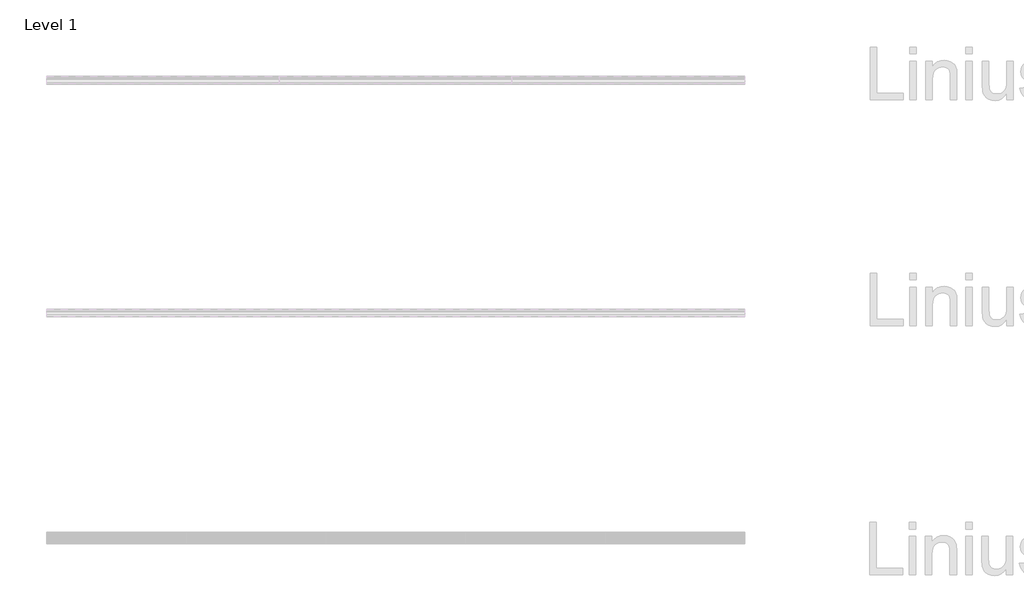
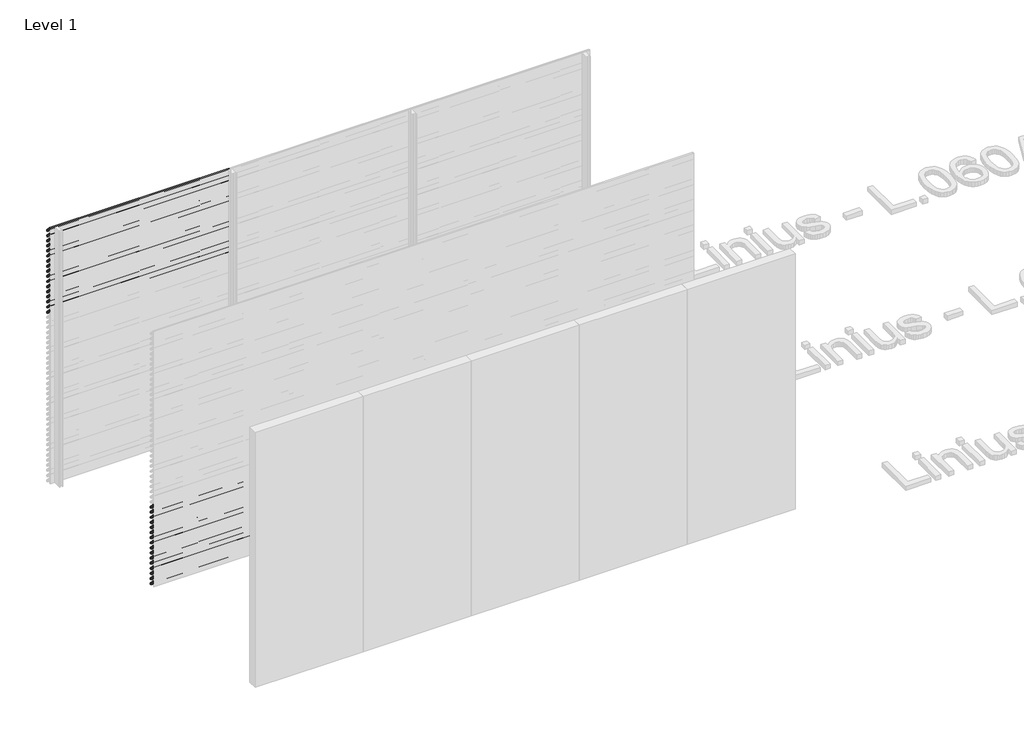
# One storey, part 109 of 153: 33 proxies.
"""IFC4 building model written with IfcOpenShell, lengths in millimetres."""

from ifc_helpers import new_model, si_unit, point, frame, frame_2d, origin, place, context, project, spatial, polyline, circle_curve, trimmed, segment, composite_curve, outline, extrude, element, save

model = new_model("IFC4")

# Units and contexts
model_context = context("Model", 3, world=origin())
ifc_project = project(units=[si_unit("LENGTHUNIT", "METRE", prefix="MILLI")], contexts=[model_context])

# Site, building, storey
site = spatial("IfcSite", under=ifc_project)
building = spatial("IfcBuilding", under=site)
storey = spatial("IfcBuildingStorey", under=building, Name="Level 1", Elevation=0.0)

# Proxies
placement = place(None, origin())
element("IfcBuildingElementProxy", 1, Name="Wall Sweeps", at=placement, inside=storey, context=model_context, shape_type="SweptSolid", body=[
    extrude(outline(composite_curve([segment(polyline([(51485.0540136, 3000.0), (51499.874191, 2998.7034025), (51549.0540136, 2945.0102749), (51549.0540136, 2933.6108187)]), True, "CONTINUOUS"), segment(trimmed(circle_curve(frame_2d((51545.7883652, 2933.897153)), 3.2781774), [point((51549.0540136, 2933.6108187))], [point((51546.4639442, 2930.6893438))], False, "CARTESIAN"), True, "CONTINUOUS"), segment(polyline([(51546.4639442, 2930.6893438), (51534.1895723, 2931.6282758), (51485.0540136, 2985.2730773), (51485.0540136, 3000.0)]), True, "CONTINUOUS")], self_intersect=False), holes=[composite_curve([segment(polyline([(51499.1621773, 2997.2599659), (51486.5540136, 2998.3630372), (51486.5540136, 2985.856213), (51534.8952036, 2933.0786805), (51546.3312542, 2932.2038762)]), True, "CONTINUOUS"), segment(trimmed(circle_curve(frame_2d((51545.7883652, 2933.897153)), 1.7781774), [point((51546.3312542, 2932.2038762))], [point((51547.5540136, 2933.6864389))], True, "CARTESIAN"), True, "CONTINUOUS"), segment(polyline([(51547.5540136, 2933.6864389), (51547.5540136, 2944.4271392), (51499.1621773, 2997.2599659)]), True, "CONTINUOUS")], self_intersect=False)]), frame((44966.6208097, 0.0, 0.0), z_axis=(1.0, 0.0, 0.0), x_axis=(0.0, 1.0, 0.0)), (0.0, 0.0, 1.0), 2000.0000001),
])
element("IfcBuildingElementProxy", 2, Name="Wall Sweeps", at=placement, inside=storey, context=model_context, shape_type="SweptSolid", body=[
    extrude(outline(composite_curve([segment(polyline([(51485.0540136, 2940.0), (51499.874191, 2938.7034025), (51549.0540136, 2885.0102749), (51549.0540136, 2873.6108187)]), True, "CONTINUOUS"), segment(trimmed(circle_curve(frame_2d((51545.7883652, 2873.897153)), 3.2781774), [point((51549.0540136, 2873.6108187))], [point((51546.4639442, 2870.6893438))], False, "CARTESIAN"), True, "CONTINUOUS"), segment(polyline([(51546.4639442, 2870.6893438), (51534.1895723, 2871.6282758), (51485.0540136, 2925.2730773), (51485.0540136, 2940.0)]), True, "CONTINUOUS")], self_intersect=False), holes=[composite_curve([segment(polyline([(51499.1621773, 2937.2599659), (51486.5540136, 2938.3630372), (51486.5540136, 2925.856213), (51534.8952036, 2873.0786805), (51546.3312542, 2872.2038762)]), True, "CONTINUOUS"), segment(trimmed(circle_curve(frame_2d((51545.7883652, 2873.897153)), 1.7781774), [point((51546.3312542, 2872.2038762))], [point((51547.5540136, 2873.6864389))], True, "CARTESIAN"), True, "CONTINUOUS"), segment(polyline([(51547.5540136, 2873.6864389), (51547.5540136, 2884.4271392), (51499.1621773, 2937.2599659)]), True, "CONTINUOUS")], self_intersect=False)]), frame((44966.6208097, 0.0, 0.0), z_axis=(1.0, 0.0, 0.0), x_axis=(0.0, 1.0, 0.0)), (0.0, 0.0, 1.0), 2000.0000001),
])
element("IfcBuildingElementProxy", 3, Name="Wall Sweeps", at=placement, inside=storey, context=model_context, shape_type="SweptSolid", body=[
    extrude(outline(composite_curve([segment(polyline([(51485.0540136, 2880.0), (51499.874191, 2878.7034025), (51549.0540136, 2825.0102749), (51549.0540136, 2813.6108187)]), True, "CONTINUOUS"), segment(trimmed(circle_curve(frame_2d((51545.7883652, 2813.897153)), 3.2781774), [point((51549.0540136, 2813.6108187))], [point((51546.4639442, 2810.6893438))], False, "CARTESIAN"), True, "CONTINUOUS"), segment(polyline([(51546.4639442, 2810.6893438), (51534.1895723, 2811.6282758), (51485.0540136, 2865.2730773), (51485.0540136, 2880.0)]), True, "CONTINUOUS")], self_intersect=False), holes=[composite_curve([segment(polyline([(51499.1621773, 2877.2599659), (51486.5540136, 2878.3630372), (51486.5540136, 2865.856213), (51534.8952036, 2813.0786805), (51546.3312542, 2812.2038762)]), True, "CONTINUOUS"), segment(trimmed(circle_curve(frame_2d((51545.7883652, 2813.897153)), 1.7781774), [point((51546.3312542, 2812.2038762))], [point((51547.5540136, 2813.6864389))], True, "CARTESIAN"), True, "CONTINUOUS"), segment(polyline([(51547.5540136, 2813.6864389), (51547.5540136, 2824.4271392), (51499.1621773, 2877.2599659)]), True, "CONTINUOUS")], self_intersect=False)]), frame((44966.6208097, 0.0, 0.0), z_axis=(1.0, 0.0, 0.0), x_axis=(0.0, 1.0, 0.0)), (0.0, 0.0, 1.0), 2000.0000001),
])
element("IfcBuildingElementProxy", 4, Name="Wall Sweeps", at=placement, inside=storey, context=model_context, shape_type="SweptSolid", body=[
    extrude(outline(composite_curve([segment(polyline([(51485.0540136, 2820.0), (51499.874191, 2818.7034025), (51549.0540136, 2765.0102749), (51549.0540136, 2753.6108187)]), True, "CONTINUOUS"), segment(trimmed(circle_curve(frame_2d((51545.7883652, 2753.897153)), 3.2781774), [point((51549.0540136, 2753.6108187))], [point((51546.4639442, 2750.6893438))], False, "CARTESIAN"), True, "CONTINUOUS"), segment(polyline([(51546.4639442, 2750.6893438), (51534.1895723, 2751.6282758), (51485.0540136, 2805.2730773), (51485.0540136, 2820.0)]), True, "CONTINUOUS")], self_intersect=False), holes=[composite_curve([segment(polyline([(51499.1621773, 2817.2599659), (51486.5540136, 2818.3630372), (51486.5540136, 2805.856213), (51534.8952036, 2753.0786805), (51546.3312542, 2752.2038762)]), True, "CONTINUOUS"), segment(trimmed(circle_curve(frame_2d((51545.7883652, 2753.897153)), 1.7781774), [point((51546.3312542, 2752.2038762))], [point((51547.5540136, 2753.6864389))], True, "CARTESIAN"), True, "CONTINUOUS"), segment(polyline([(51547.5540136, 2753.6864389), (51547.5540136, 2764.4271392), (51499.1621773, 2817.2599659)]), True, "CONTINUOUS")], self_intersect=False)]), frame((44966.6208097, 0.0, 0.0), z_axis=(1.0, 0.0, 0.0), x_axis=(0.0, 1.0, 0.0)), (0.0, 0.0, 1.0), 2000.0000001),
])
element("IfcBuildingElementProxy", 5, Name="Wall Sweeps", at=placement, inside=storey, context=model_context, shape_type="SweptSolid", body=[
    extrude(outline(composite_curve([segment(polyline([(51485.0540136, 2760.0), (51499.874191, 2758.7034025), (51549.0540136, 2705.0102749), (51549.0540136, 2693.6108187)]), True, "CONTINUOUS"), segment(trimmed(circle_curve(frame_2d((51545.7883652, 2693.897153)), 3.2781774), [point((51549.0540136, 2693.6108187))], [point((51546.4639442, 2690.6893438))], False, "CARTESIAN"), True, "CONTINUOUS"), segment(polyline([(51546.4639442, 2690.6893438), (51534.1895723, 2691.6282758), (51485.0540136, 2745.2730773), (51485.0540136, 2760.0)]), True, "CONTINUOUS")], self_intersect=False), holes=[composite_curve([segment(polyline([(51499.1621773, 2757.2599659), (51486.5540136, 2758.3630372), (51486.5540136, 2745.856213), (51534.8952036, 2693.0786805), (51546.3312542, 2692.2038762)]), True, "CONTINUOUS"), segment(trimmed(circle_curve(frame_2d((51545.7883652, 2693.897153)), 1.7781774), [point((51546.3312542, 2692.2038762))], [point((51547.5540136, 2693.6864389))], True, "CARTESIAN"), True, "CONTINUOUS"), segment(polyline([(51547.5540136, 2693.6864389), (51547.5540136, 2704.4271392), (51499.1621773, 2757.2599659)]), True, "CONTINUOUS")], self_intersect=False)]), frame((44966.6208097, 0.0, 0.0), z_axis=(1.0, 0.0, 0.0), x_axis=(0.0, 1.0, 0.0)), (0.0, 0.0, 1.0), 2000.0000001),
])
element("IfcBuildingElementProxy", 6, Name="Wall Sweeps", at=placement, inside=storey, context=model_context, shape_type="SweptSolid", body=[
    extrude(outline(composite_curve([segment(polyline([(51485.0540136, 2700.0), (51499.874191, 2698.7034025), (51549.0540136, 2645.0102749), (51549.0540136, 2633.6108187)]), True, "CONTINUOUS"), segment(trimmed(circle_curve(frame_2d((51545.7883652, 2633.897153)), 3.2781774), [point((51549.0540136, 2633.6108187))], [point((51546.4639442, 2630.6893438))], False, "CARTESIAN"), True, "CONTINUOUS"), segment(polyline([(51546.4639442, 2630.6893438), (51534.1895723, 2631.6282758), (51485.0540136, 2685.2730773), (51485.0540136, 2700.0)]), True, "CONTINUOUS")], self_intersect=False), holes=[composite_curve([segment(polyline([(51499.1621773, 2697.2599659), (51486.5540136, 2698.3630372), (51486.5540136, 2685.856213), (51534.8952036, 2633.0786805), (51546.3312542, 2632.2038762)]), True, "CONTINUOUS"), segment(trimmed(circle_curve(frame_2d((51545.7883652, 2633.897153)), 1.7781774), [point((51546.3312542, 2632.2038762))], [point((51547.5540136, 2633.6864389))], True, "CARTESIAN"), True, "CONTINUOUS"), segment(polyline([(51547.5540136, 2633.6864389), (51547.5540136, 2644.4271392), (51499.1621773, 2697.2599659)]), True, "CONTINUOUS")], self_intersect=False)]), frame((44966.6208097, 0.0, 0.0), z_axis=(1.0, 0.0, 0.0), x_axis=(0.0, 1.0, 0.0)), (0.0, 0.0, 1.0), 2000.0000001),
])
element("IfcBuildingElementProxy", 7, Name="Wall Sweeps", at=placement, inside=storey, context=model_context, shape_type="SweptSolid", body=[
    extrude(outline(composite_curve([segment(polyline([(51485.0540136, 2640.0), (51499.874191, 2638.7034025), (51549.0540136, 2585.0102749), (51549.0540136, 2573.6108187)]), True, "CONTINUOUS"), segment(trimmed(circle_curve(frame_2d((51545.7883652, 2573.897153)), 3.2781774), [point((51549.0540136, 2573.6108187))], [point((51546.4639442, 2570.6893438))], False, "CARTESIAN"), True, "CONTINUOUS"), segment(polyline([(51546.4639442, 2570.6893438), (51534.1895723, 2571.6282758), (51485.0540136, 2625.2730773), (51485.0540136, 2640.0)]), True, "CONTINUOUS")], self_intersect=False), holes=[composite_curve([segment(polyline([(51499.1621773, 2637.2599659), (51486.5540136, 2638.3630372), (51486.5540136, 2625.856213), (51534.8952036, 2573.0786805), (51546.3312542, 2572.2038762)]), True, "CONTINUOUS"), segment(trimmed(circle_curve(frame_2d((51545.7883652, 2573.897153)), 1.7781774), [point((51546.3312542, 2572.2038762))], [point((51547.5540136, 2573.6864389))], True, "CARTESIAN"), True, "CONTINUOUS"), segment(polyline([(51547.5540136, 2573.6864389), (51547.5540136, 2584.4271392), (51499.1621773, 2637.2599659)]), True, "CONTINUOUS")], self_intersect=False)]), frame((44966.6208097, 0.0, 0.0), z_axis=(1.0, 0.0, 0.0), x_axis=(0.0, 1.0, 0.0)), (0.0, 0.0, 1.0), 2000.0000001),
])
element("IfcBuildingElementProxy", 8, Name="Wall Sweeps", at=placement, inside=storey, context=model_context, shape_type="SweptSolid", body=[
    extrude(outline(composite_curve([segment(polyline([(51485.0540136, 2580.0), (51499.874191, 2578.7034025), (51549.0540136, 2525.0102749), (51549.0540136, 2513.6108187)]), True, "CONTINUOUS"), segment(trimmed(circle_curve(frame_2d((51545.7883652, 2513.897153)), 3.2781774), [point((51549.0540136, 2513.6108187))], [point((51546.4639442, 2510.6893438))], False, "CARTESIAN"), True, "CONTINUOUS"), segment(polyline([(51546.4639442, 2510.6893438), (51534.1895723, 2511.6282758), (51485.0540136, 2565.2730773), (51485.0540136, 2580.0)]), True, "CONTINUOUS")], self_intersect=False), holes=[composite_curve([segment(polyline([(51499.1621773, 2577.2599659), (51486.5540136, 2578.3630372), (51486.5540136, 2565.856213), (51534.8952036, 2513.0786805), (51546.3312542, 2512.2038762)]), True, "CONTINUOUS"), segment(trimmed(circle_curve(frame_2d((51545.7883652, 2513.897153)), 1.7781774), [point((51546.3312542, 2512.2038762))], [point((51547.5540136, 2513.6864389))], True, "CARTESIAN"), True, "CONTINUOUS"), segment(polyline([(51547.5540136, 2513.6864389), (51547.5540136, 2524.4271392), (51499.1621773, 2577.2599659)]), True, "CONTINUOUS")], self_intersect=False)]), frame((44966.6208097, 0.0, 0.0), z_axis=(1.0, 0.0, 0.0), x_axis=(0.0, 1.0, 0.0)), (0.0, 0.0, 1.0), 2000.0000001),
])
element("IfcBuildingElementProxy", 9, Name="Wall Sweeps", at=placement, inside=storey, context=model_context, shape_type="SweptSolid", body=[
    extrude(outline(composite_curve([segment(polyline([(51485.0540136, 2520.0), (51499.874191, 2518.7034025), (51549.0540136, 2465.0102749), (51549.0540136, 2453.6108187)]), True, "CONTINUOUS"), segment(trimmed(circle_curve(frame_2d((51545.7883652, 2453.897153)), 3.2781774), [point((51549.0540136, 2453.6108187))], [point((51546.4639442, 2450.6893438))], False, "CARTESIAN"), True, "CONTINUOUS"), segment(polyline([(51546.4639442, 2450.6893438), (51534.1895723, 2451.6282758), (51485.0540136, 2505.2730773), (51485.0540136, 2520.0)]), True, "CONTINUOUS")], self_intersect=False), holes=[composite_curve([segment(polyline([(51499.1621773, 2517.2599659), (51486.5540136, 2518.3630372), (51486.5540136, 2505.856213), (51534.8952036, 2453.0786805), (51546.3312542, 2452.2038762)]), True, "CONTINUOUS"), segment(trimmed(circle_curve(frame_2d((51545.7883652, 2453.897153)), 1.7781774), [point((51546.3312542, 2452.2038762))], [point((51547.5540136, 2453.6864389))], True, "CARTESIAN"), True, "CONTINUOUS"), segment(polyline([(51547.5540136, 2453.6864389), (51547.5540136, 2464.4271392), (51499.1621773, 2517.2599659)]), True, "CONTINUOUS")], self_intersect=False)]), frame((44966.6208097, 0.0, 0.0), z_axis=(1.0, 0.0, 0.0), x_axis=(0.0, 1.0, 0.0)), (0.0, 0.0, 1.0), 2000.0000001),
])
element("IfcBuildingElementProxy", 10, Name="Wall Sweeps", at=placement, inside=storey, context=model_context, shape_type="SweptSolid", body=[
    extrude(outline(composite_curve([segment(polyline([(51485.0540136, 2460.0), (51499.874191, 2458.7034025), (51549.0540136, 2405.0102749), (51549.0540136, 2393.6108187)]), True, "CONTINUOUS"), segment(trimmed(circle_curve(frame_2d((51545.7883652, 2393.897153)), 3.2781774), [point((51549.0540136, 2393.6108187))], [point((51546.4639442, 2390.6893438))], False, "CARTESIAN"), True, "CONTINUOUS"), segment(polyline([(51546.4639442, 2390.6893438), (51534.1895723, 2391.6282758), (51485.0540136, 2445.2730773), (51485.0540136, 2460.0)]), True, "CONTINUOUS")], self_intersect=False), holes=[composite_curve([segment(polyline([(51499.1621773, 2457.2599659), (51486.5540136, 2458.3630372), (51486.5540136, 2445.856213), (51534.8952036, 2393.0786805), (51546.3312542, 2392.2038762)]), True, "CONTINUOUS"), segment(trimmed(circle_curve(frame_2d((51545.7883652, 2393.897153)), 1.7781774), [point((51546.3312542, 2392.2038762))], [point((51547.5540136, 2393.6864389))], True, "CARTESIAN"), True, "CONTINUOUS"), segment(polyline([(51547.5540136, 2393.6864389), (51547.5540136, 2404.4271392), (51499.1621773, 2457.2599659)]), True, "CONTINUOUS")], self_intersect=False)]), frame((44966.6208097, 0.0, 0.0), z_axis=(1.0, 0.0, 0.0), x_axis=(0.0, 1.0, 0.0)), (0.0, 0.0, 1.0), 2000.0000001),
])
element("IfcBuildingElementProxy", 11, Name="Wall Sweeps", at=placement, inside=storey, context=model_context, shape_type="SweptSolid", body=[
    extrude(outline(composite_curve([segment(polyline([(51485.0540136, 2400.0), (51499.874191, 2398.7034025), (51549.0540136, 2345.0102749), (51549.0540136, 2333.6108187)]), True, "CONTINUOUS"), segment(trimmed(circle_curve(frame_2d((51545.7883652, 2333.897153)), 3.2781774), [point((51549.0540136, 2333.6108187))], [point((51546.4639442, 2330.6893438))], False, "CARTESIAN"), True, "CONTINUOUS"), segment(polyline([(51546.4639442, 2330.6893438), (51534.1895723, 2331.6282758), (51485.0540136, 2385.2730773), (51485.0540136, 2400.0)]), True, "CONTINUOUS")], self_intersect=False), holes=[composite_curve([segment(polyline([(51499.1621773, 2397.2599659), (51486.5540136, 2398.3630372), (51486.5540136, 2385.856213), (51534.8952036, 2333.0786805), (51546.3312542, 2332.2038762)]), True, "CONTINUOUS"), segment(trimmed(circle_curve(frame_2d((51545.7883652, 2333.897153)), 1.7781774), [point((51546.3312542, 2332.2038762))], [point((51547.5540136, 2333.6864389))], True, "CARTESIAN"), True, "CONTINUOUS"), segment(polyline([(51547.5540136, 2333.6864389), (51547.5540136, 2344.4271392), (51499.1621773, 2397.2599659)]), True, "CONTINUOUS")], self_intersect=False)]), frame((44966.6208097, 0.0, 0.0), z_axis=(1.0, 0.0, 0.0), x_axis=(0.0, 1.0, 0.0)), (0.0, 0.0, 1.0), 2000.0000001),
])
element("IfcBuildingElementProxy", 12, Name="Wall Sweeps", at=placement, inside=storey, context=model_context, shape_type="SweptSolid", body=[
    extrude(outline(composite_curve([segment(polyline([(51485.0540136, 2340.0), (51499.874191, 2338.7034025), (51549.0540136, 2285.0102749), (51549.0540136, 2273.6108187)]), True, "CONTINUOUS"), segment(trimmed(circle_curve(frame_2d((51545.7883652, 2273.897153)), 3.2781774), [point((51549.0540136, 2273.6108187))], [point((51546.4639442, 2270.6893438))], False, "CARTESIAN"), True, "CONTINUOUS"), segment(polyline([(51546.4639442, 2270.6893438), (51534.1895723, 2271.6282758), (51485.0540136, 2325.2730773), (51485.0540136, 2340.0)]), True, "CONTINUOUS")], self_intersect=False), holes=[composite_curve([segment(polyline([(51499.1621773, 2337.2599659), (51486.5540136, 2338.3630372), (51486.5540136, 2325.856213), (51534.8952036, 2273.0786805), (51546.3312542, 2272.2038762)]), True, "CONTINUOUS"), segment(trimmed(circle_curve(frame_2d((51545.7883652, 2273.897153)), 1.7781774), [point((51546.3312542, 2272.2038762))], [point((51547.5540136, 2273.6864389))], True, "CARTESIAN"), True, "CONTINUOUS"), segment(polyline([(51547.5540136, 2273.6864389), (51547.5540136, 2284.4271392), (51499.1621773, 2337.2599659)]), True, "CONTINUOUS")], self_intersect=False)]), frame((44966.6208097, 0.0, 0.0), z_axis=(1.0, 0.0, 0.0), x_axis=(0.0, 1.0, 0.0)), (0.0, 0.0, 1.0), 2000.0000001),
])
element("IfcBuildingElementProxy", 13, Name="Wall Sweeps", at=placement, inside=storey, context=model_context, shape_type="SweptSolid", body=[
    extrude(outline(composite_curve([segment(polyline([(51485.0540136, 2280.0), (51499.874191, 2278.7034025), (51549.0540136, 2225.0102749), (51549.0540136, 2213.6108187)]), True, "CONTINUOUS"), segment(trimmed(circle_curve(frame_2d((51545.7883652, 2213.897153)), 3.2781774), [point((51549.0540136, 2213.6108187))], [point((51546.4639442, 2210.6893438))], False, "CARTESIAN"), True, "CONTINUOUS"), segment(polyline([(51546.4639442, 2210.6893438), (51534.1895723, 2211.6282758), (51485.0540136, 2265.2730773), (51485.0540136, 2280.0)]), True, "CONTINUOUS")], self_intersect=False), holes=[composite_curve([segment(polyline([(51499.1621773, 2277.2599659), (51486.5540136, 2278.3630372), (51486.5540136, 2265.856213), (51534.8952036, 2213.0786805), (51546.3312542, 2212.2038762)]), True, "CONTINUOUS"), segment(trimmed(circle_curve(frame_2d((51545.7883652, 2213.897153)), 1.7781774), [point((51546.3312542, 2212.2038762))], [point((51547.5540136, 2213.6864389))], True, "CARTESIAN"), True, "CONTINUOUS"), segment(polyline([(51547.5540136, 2213.6864389), (51547.5540136, 2224.4271392), (51499.1621773, 2277.2599659)]), True, "CONTINUOUS")], self_intersect=False)]), frame((44966.6208097, 0.0, 0.0), z_axis=(1.0, 0.0, 0.0), x_axis=(0.0, 1.0, 0.0)), (0.0, 0.0, 1.0), 2000.0000001),
])
element("IfcBuildingElementProxy", 14, Name="Wall Sweeps", at=placement, inside=storey, context=model_context, shape_type="SweptSolid", body=[
    extrude(outline(composite_curve([segment(polyline([(51485.0540136, 2220.0), (51499.874191, 2218.7034025), (51549.0540136, 2165.0102749), (51549.0540136, 2153.6108187)]), True, "CONTINUOUS"), segment(trimmed(circle_curve(frame_2d((51545.7883652, 2153.897153)), 3.2781774), [point((51549.0540136, 2153.6108187))], [point((51546.4639442, 2150.6893438))], False, "CARTESIAN"), True, "CONTINUOUS"), segment(polyline([(51546.4639442, 2150.6893438), (51534.1895723, 2151.6282758), (51485.0540136, 2205.2730773), (51485.0540136, 2220.0)]), True, "CONTINUOUS")], self_intersect=False), holes=[composite_curve([segment(polyline([(51499.1621773, 2217.2599659), (51486.5540136, 2218.3630372), (51486.5540136, 2205.856213), (51534.8952036, 2153.0786805), (51546.3312542, 2152.2038762)]), True, "CONTINUOUS"), segment(trimmed(circle_curve(frame_2d((51545.7883652, 2153.897153)), 1.7781774), [point((51546.3312542, 2152.2038762))], [point((51547.5540136, 2153.6864389))], True, "CARTESIAN"), True, "CONTINUOUS"), segment(polyline([(51547.5540136, 2153.6864389), (51547.5540136, 2164.4271392), (51499.1621773, 2217.2599659)]), True, "CONTINUOUS")], self_intersect=False)]), frame((44966.6208097, 0.0, 0.0), z_axis=(1.0, 0.0, 0.0), x_axis=(0.0, 1.0, 0.0)), (0.0, 0.0, 1.0), 2000.0000001),
])
element("IfcBuildingElementProxy", 15, Name="Wall Sweeps", at=placement, inside=storey, context=model_context, shape_type="SweptSolid", body=[
    extrude(outline(composite_curve([segment(polyline([(51485.0540136, 2160.0), (51499.874191, 2158.7034025), (51549.0540136, 2105.0102749), (51549.0540136, 2093.6108187)]), True, "CONTINUOUS"), segment(trimmed(circle_curve(frame_2d((51545.7883652, 2093.897153)), 3.2781774), [point((51549.0540136, 2093.6108187))], [point((51546.4639442, 2090.6893438))], False, "CARTESIAN"), True, "CONTINUOUS"), segment(polyline([(51546.4639442, 2090.6893438), (51534.1895723, 2091.6282758), (51485.0540136, 2145.2730773), (51485.0540136, 2160.0)]), True, "CONTINUOUS")], self_intersect=False), holes=[composite_curve([segment(polyline([(51499.1621773, 2157.2599659), (51486.5540136, 2158.3630372), (51486.5540136, 2145.856213), (51534.8952036, 2093.0786805), (51546.3312542, 2092.2038762)]), True, "CONTINUOUS"), segment(trimmed(circle_curve(frame_2d((51545.7883652, 2093.897153)), 1.7781774), [point((51546.3312542, 2092.2038762))], [point((51547.5540136, 2093.6864389))], True, "CARTESIAN"), True, "CONTINUOUS"), segment(polyline([(51547.5540136, 2093.6864389), (51547.5540136, 2104.4271392), (51499.1621773, 2157.2599659)]), True, "CONTINUOUS")], self_intersect=False)]), frame((44966.6208097, 0.0, 0.0), z_axis=(1.0, 0.0, 0.0), x_axis=(0.0, 1.0, 0.0)), (0.0, 0.0, 1.0), 2000.0000001),
])
element("IfcBuildingElementProxy", 16, Name="Wall Sweeps", at=placement, inside=storey, context=model_context, shape_type="SweptSolid", body=[
    extrude(outline(composite_curve([segment(polyline([(51485.0540136, 2100.0), (51499.874191, 2098.7034025), (51549.0540136, 2045.0102749), (51549.0540136, 2033.6108187)]), True, "CONTINUOUS"), segment(trimmed(circle_curve(frame_2d((51545.7883652, 2033.897153)), 3.2781774), [point((51549.0540136, 2033.6108187))], [point((51546.4639442, 2030.6893438))], False, "CARTESIAN"), True, "CONTINUOUS"), segment(polyline([(51546.4639442, 2030.6893438), (51534.1895723, 2031.6282758), (51485.0540136, 2085.2730773), (51485.0540136, 2100.0)]), True, "CONTINUOUS")], self_intersect=False), holes=[composite_curve([segment(polyline([(51499.1621773, 2097.2599659), (51486.5540136, 2098.3630372), (51486.5540136, 2085.856213), (51534.8952036, 2033.0786805), (51546.3312542, 2032.2038762)]), True, "CONTINUOUS"), segment(trimmed(circle_curve(frame_2d((51545.7883652, 2033.897153)), 1.7781774), [point((51546.3312542, 2032.2038762))], [point((51547.5540136, 2033.6864389))], True, "CARTESIAN"), True, "CONTINUOUS"), segment(polyline([(51547.5540136, 2033.6864389), (51547.5540136, 2044.4271392), (51499.1621773, 2097.2599659)]), True, "CONTINUOUS")], self_intersect=False)]), frame((44966.6208097, 0.0, 0.0), z_axis=(1.0, 0.0, 0.0), x_axis=(0.0, 1.0, 0.0)), (0.0, 0.0, 1.0), 2000.0000001),
])
element("IfcBuildingElementProxy", 17, Name="Wall Sweeps", at=placement, inside=storey, context=model_context, shape_type="SweptSolid", body=[
    extrude(outline(composite_curve([segment(polyline([(51485.0540136, 2040.0), (51499.874191, 2038.7034025), (51549.0540136, 1985.0102749), (51549.0540136, 1973.6108187)]), True, "CONTINUOUS"), segment(trimmed(circle_curve(frame_2d((51545.7883652, 1973.897153)), 3.2781774), [point((51549.0540136, 1973.6108187))], [point((51546.4639442, 1970.6893438))], False, "CARTESIAN"), True, "CONTINUOUS"), segment(polyline([(51546.4639442, 1970.6893438), (51534.1895723, 1971.6282758), (51485.0540136, 2025.2730773), (51485.0540136, 2040.0)]), True, "CONTINUOUS")], self_intersect=False), holes=[composite_curve([segment(polyline([(51499.1621773, 2037.2599659), (51486.5540136, 2038.3630372), (51486.5540136, 2025.856213), (51534.8952036, 1973.0786805), (51546.3312542, 1972.2038762)]), True, "CONTINUOUS"), segment(trimmed(circle_curve(frame_2d((51545.7883652, 1973.897153)), 1.7781774), [point((51546.3312542, 1972.2038762))], [point((51547.5540136, 1973.6864389))], True, "CARTESIAN"), True, "CONTINUOUS"), segment(polyline([(51547.5540136, 1973.6864389), (51547.5540136, 1984.4271392), (51499.1621773, 2037.2599659)]), True, "CONTINUOUS")], self_intersect=False)]), frame((44966.6208097, 0.0, 0.0), z_axis=(1.0, 0.0, 0.0), x_axis=(0.0, 1.0, 0.0)), (0.0, 0.0, 1.0), 2000.0000001),
])
element("IfcBuildingElementProxy", 18, Name="Wall Sweeps", at=placement, inside=storey, context=model_context, shape_type="SweptSolid", body=[
    extrude(outline(composite_curve([segment(polyline([(49485.0540136, 960.0), (49499.874191, 958.7034025), (49549.0540136, 905.0102749), (49549.0540136, 893.6108187)]), True, "CONTINUOUS"), segment(trimmed(circle_curve(frame_2d((49545.7883652, 893.897153)), 3.2781774), [point((49549.0540136, 893.6108187))], [point((49546.4639442, 890.6893438))], False, "CARTESIAN"), True, "CONTINUOUS"), segment(polyline([(49546.4639442, 890.6893438), (49534.1895723, 891.6282758), (49485.0540136, 945.2730773), (49485.0540136, 960.0)]), True, "CONTINUOUS")], self_intersect=False), holes=[composite_curve([segment(polyline([(49499.1621773, 957.2599659), (49486.5540136, 958.3630372), (49486.5540136, 945.856213), (49534.8952036, 893.0786805), (49546.3312542, 892.2038762)]), True, "CONTINUOUS"), segment(trimmed(circle_curve(frame_2d((49545.7883652, 893.897153)), 1.7781774), [point((49546.3312542, 892.2038762))], [point((49547.5540136, 893.6864389))], True, "CARTESIAN"), True, "CONTINUOUS"), segment(polyline([(49547.5540136, 893.6864389), (49547.5540136, 904.4271392), (49499.1621773, 957.2599659)]), True, "CONTINUOUS")], self_intersect=False)]), frame((44966.6208097, 0.0, 0.0), z_axis=(1.0, 0.0, 0.0), x_axis=(0.0, 1.0, 0.0)), (0.0, 0.0, 1.0), 6000.0),
])
element("IfcBuildingElementProxy", 19, Name="Wall Sweeps", at=placement, inside=storey, context=model_context, shape_type="SweptSolid", body=[
    extrude(outline(composite_curve([segment(polyline([(49485.0540136, 900.0), (49499.874191, 898.7034025), (49549.0540136, 845.0102749), (49549.0540136, 833.6108187)]), True, "CONTINUOUS"), segment(trimmed(circle_curve(frame_2d((49545.7883652, 833.897153)), 3.2781774), [point((49549.0540136, 833.6108187))], [point((49546.4639442, 830.6893438))], False, "CARTESIAN"), True, "CONTINUOUS"), segment(polyline([(49546.4639442, 830.6893438), (49534.1895723, 831.6282758), (49485.0540136, 885.2730773), (49485.0540136, 900.0)]), True, "CONTINUOUS")], self_intersect=False), holes=[composite_curve([segment(polyline([(49499.1621773, 897.2599659), (49486.5540136, 898.3630372), (49486.5540136, 885.856213), (49534.8952036, 833.0786805), (49546.3312542, 832.2038762)]), True, "CONTINUOUS"), segment(trimmed(circle_curve(frame_2d((49545.7883652, 833.897153)), 1.7781774), [point((49546.3312542, 832.2038762))], [point((49547.5540136, 833.6864389))], True, "CARTESIAN"), True, "CONTINUOUS"), segment(polyline([(49547.5540136, 833.6864389), (49547.5540136, 844.4271392), (49499.1621773, 897.2599659)]), True, "CONTINUOUS")], self_intersect=False)]), frame((44966.6208097, 0.0, 0.0), z_axis=(1.0, 0.0, 0.0), x_axis=(0.0, 1.0, 0.0)), (0.0, 0.0, 1.0), 6000.0),
])
element("IfcBuildingElementProxy", 20, Name="Wall Sweeps", at=placement, inside=storey, context=model_context, shape_type="SweptSolid", body=[
    extrude(outline(composite_curve([segment(polyline([(49485.0540136, 840.0), (49499.874191, 838.7034025), (49549.0540136, 785.0102749), (49549.0540136, 773.6108187)]), True, "CONTINUOUS"), segment(trimmed(circle_curve(frame_2d((49545.7883652, 773.897153)), 3.2781774), [point((49549.0540136, 773.6108187))], [point((49546.4639442, 770.6893438))], False, "CARTESIAN"), True, "CONTINUOUS"), segment(polyline([(49546.4639442, 770.6893438), (49534.1895723, 771.6282758), (49485.0540136, 825.2730773), (49485.0540136, 840.0)]), True, "CONTINUOUS")], self_intersect=False), holes=[composite_curve([segment(polyline([(49499.1621773, 837.2599659), (49486.5540136, 838.3630372), (49486.5540136, 825.856213), (49534.8952036, 773.0786805), (49546.3312542, 772.2038762)]), True, "CONTINUOUS"), segment(trimmed(circle_curve(frame_2d((49545.7883652, 773.897153)), 1.7781774), [point((49546.3312542, 772.2038762))], [point((49547.5540136, 773.6864389))], True, "CARTESIAN"), True, "CONTINUOUS"), segment(polyline([(49547.5540136, 773.6864389), (49547.5540136, 784.4271392), (49499.1621773, 837.2599659)]), True, "CONTINUOUS")], self_intersect=False)]), frame((44966.6208097, 0.0, 0.0), z_axis=(1.0, 0.0, 0.0), x_axis=(0.0, 1.0, 0.0)), (0.0, 0.0, 1.0), 6000.0),
])
element("IfcBuildingElementProxy", 21, Name="Wall Sweeps", at=placement, inside=storey, context=model_context, shape_type="SweptSolid", body=[
    extrude(outline(composite_curve([segment(polyline([(49485.0540136, 780.0), (49499.874191, 778.7034025), (49549.0540136, 725.0102749), (49549.0540136, 713.6108187)]), True, "CONTINUOUS"), segment(trimmed(circle_curve(frame_2d((49545.7883652, 713.897153)), 3.2781774), [point((49549.0540136, 713.6108187))], [point((49546.4639442, 710.6893438))], False, "CARTESIAN"), True, "CONTINUOUS"), segment(polyline([(49546.4639442, 710.6893438), (49534.1895723, 711.6282758), (49485.0540136, 765.2730773), (49485.0540136, 780.0)]), True, "CONTINUOUS")], self_intersect=False), holes=[composite_curve([segment(polyline([(49499.1621773, 777.2599659), (49486.5540136, 778.3630372), (49486.5540136, 765.856213), (49534.8952036, 713.0786805), (49546.3312542, 712.2038762)]), True, "CONTINUOUS"), segment(trimmed(circle_curve(frame_2d((49545.7883652, 713.897153)), 1.7781774), [point((49546.3312542, 712.2038762))], [point((49547.5540136, 713.6864389))], True, "CARTESIAN"), True, "CONTINUOUS"), segment(polyline([(49547.5540136, 713.6864389), (49547.5540136, 724.4271392), (49499.1621773, 777.2599659)]), True, "CONTINUOUS")], self_intersect=False)]), frame((44966.6208097, 0.0, 0.0), z_axis=(1.0, 0.0, 0.0), x_axis=(0.0, 1.0, 0.0)), (0.0, 0.0, 1.0), 6000.0),
])
element("IfcBuildingElementProxy", 22, Name="Wall Sweeps", at=placement, inside=storey, context=model_context, shape_type="SweptSolid", body=[
    extrude(outline(composite_curve([segment(polyline([(49485.0540136, 720.0), (49499.874191, 718.7034025), (49549.0540136, 665.0102749), (49549.0540136, 653.6108187)]), True, "CONTINUOUS"), segment(trimmed(circle_curve(frame_2d((49545.7883652, 653.897153)), 3.2781774), [point((49549.0540136, 653.6108187))], [point((49546.4639442, 650.6893438))], False, "CARTESIAN"), True, "CONTINUOUS"), segment(polyline([(49546.4639442, 650.6893438), (49534.1895723, 651.6282758), (49485.0540136, 705.2730773), (49485.0540136, 720.0)]), True, "CONTINUOUS")], self_intersect=False), holes=[composite_curve([segment(polyline([(49499.1621773, 717.2599659), (49486.5540136, 718.3630372), (49486.5540136, 705.856213), (49534.8952036, 653.0786805), (49546.3312542, 652.2038762)]), True, "CONTINUOUS"), segment(trimmed(circle_curve(frame_2d((49545.7883652, 653.897153)), 1.7781774), [point((49546.3312542, 652.2038762))], [point((49547.5540136, 653.6864389))], True, "CARTESIAN"), True, "CONTINUOUS"), segment(polyline([(49547.5540136, 653.6864389), (49547.5540136, 664.4271392), (49499.1621773, 717.2599659)]), True, "CONTINUOUS")], self_intersect=False)]), frame((44966.6208097, 0.0, 0.0), z_axis=(1.0, 0.0, 0.0), x_axis=(0.0, 1.0, 0.0)), (0.0, 0.0, 1.0), 6000.0),
])
element("IfcBuildingElementProxy", 23, Name="Wall Sweeps", at=placement, inside=storey, context=model_context, shape_type="SweptSolid", body=[
    extrude(outline(composite_curve([segment(polyline([(49485.0540136, 660.0), (49499.874191, 658.7034025), (49549.0540136, 605.0102749), (49549.0540136, 593.6108187)]), True, "CONTINUOUS"), segment(trimmed(circle_curve(frame_2d((49545.7883652, 593.897153)), 3.2781774), [point((49549.0540136, 593.6108187))], [point((49546.4639442, 590.6893438))], False, "CARTESIAN"), True, "CONTINUOUS"), segment(polyline([(49546.4639442, 590.6893438), (49534.1895723, 591.6282758), (49485.0540136, 645.2730773), (49485.0540136, 660.0)]), True, "CONTINUOUS")], self_intersect=False), holes=[composite_curve([segment(polyline([(49499.1621773, 657.2599659), (49486.5540136, 658.3630372), (49486.5540136, 645.856213), (49534.8952036, 593.0786805), (49546.3312542, 592.2038762)]), True, "CONTINUOUS"), segment(trimmed(circle_curve(frame_2d((49545.7883652, 593.897153)), 1.7781774), [point((49546.3312542, 592.2038762))], [point((49547.5540136, 593.6864389))], True, "CARTESIAN"), True, "CONTINUOUS"), segment(polyline([(49547.5540136, 593.6864389), (49547.5540136, 604.4271392), (49499.1621773, 657.2599659)]), True, "CONTINUOUS")], self_intersect=False)]), frame((44966.6208097, 0.0, 0.0), z_axis=(1.0, 0.0, 0.0), x_axis=(0.0, 1.0, 0.0)), (0.0, 0.0, 1.0), 6000.0),
])
element("IfcBuildingElementProxy", 24, Name="Wall Sweeps", at=placement, inside=storey, context=model_context, shape_type="SweptSolid", body=[
    extrude(outline(composite_curve([segment(polyline([(49485.0540136, 600.0), (49499.874191, 598.7034025), (49549.0540136, 545.0102749), (49549.0540136, 533.6108187)]), True, "CONTINUOUS"), segment(trimmed(circle_curve(frame_2d((49545.7883652, 533.897153)), 3.2781774), [point((49549.0540136, 533.6108187))], [point((49546.4639442, 530.6893438))], False, "CARTESIAN"), True, "CONTINUOUS"), segment(polyline([(49546.4639442, 530.6893438), (49534.1895723, 531.6282758), (49485.0540136, 585.2730773), (49485.0540136, 600.0)]), True, "CONTINUOUS")], self_intersect=False), holes=[composite_curve([segment(polyline([(49499.1621773, 597.2599659), (49486.5540136, 598.3630372), (49486.5540136, 585.856213), (49534.8952036, 533.0786805), (49546.3312542, 532.2038762)]), True, "CONTINUOUS"), segment(trimmed(circle_curve(frame_2d((49545.7883652, 533.897153)), 1.7781774), [point((49546.3312542, 532.2038762))], [point((49547.5540136, 533.6864389))], True, "CARTESIAN"), True, "CONTINUOUS"), segment(polyline([(49547.5540136, 533.6864389), (49547.5540136, 544.4271392), (49499.1621773, 597.2599659)]), True, "CONTINUOUS")], self_intersect=False)]), frame((44966.6208097, 0.0, 0.0), z_axis=(1.0, 0.0, 0.0), x_axis=(0.0, 1.0, 0.0)), (0.0, 0.0, 1.0), 6000.0),
])
element("IfcBuildingElementProxy", 25, Name="Wall Sweeps", at=placement, inside=storey, context=model_context, shape_type="SweptSolid", body=[
    extrude(outline(composite_curve([segment(polyline([(49485.0540136, 540.0), (49499.874191, 538.7034025), (49549.0540136, 485.0102749), (49549.0540136, 473.6108187)]), True, "CONTINUOUS"), segment(trimmed(circle_curve(frame_2d((49545.7883652, 473.897153)), 3.2781774), [point((49549.0540136, 473.6108187))], [point((49546.4639442, 470.6893438))], False, "CARTESIAN"), True, "CONTINUOUS"), segment(polyline([(49546.4639442, 470.6893438), (49534.1895723, 471.6282758), (49485.0540136, 525.2730773), (49485.0540136, 540.0)]), True, "CONTINUOUS")], self_intersect=False), holes=[composite_curve([segment(polyline([(49499.1621773, 537.2599659), (49486.5540136, 538.3630372), (49486.5540136, 525.856213), (49534.8952036, 473.0786805), (49546.3312542, 472.2038762)]), True, "CONTINUOUS"), segment(trimmed(circle_curve(frame_2d((49545.7883652, 473.897153)), 1.7781774), [point((49546.3312542, 472.2038762))], [point((49547.5540136, 473.6864389))], True, "CARTESIAN"), True, "CONTINUOUS"), segment(polyline([(49547.5540136, 473.6864389), (49547.5540136, 484.4271392), (49499.1621773, 537.2599659)]), True, "CONTINUOUS")], self_intersect=False)]), frame((44966.6208097, 0.0, 0.0), z_axis=(1.0, 0.0, 0.0), x_axis=(0.0, 1.0, 0.0)), (0.0, 0.0, 1.0), 6000.0),
])
element("IfcBuildingElementProxy", 26, Name="Wall Sweeps", at=placement, inside=storey, context=model_context, shape_type="SweptSolid", body=[
    extrude(outline(composite_curve([segment(polyline([(49485.0540136, 480.0), (49499.874191, 478.7034025), (49549.0540136, 425.0102749), (49549.0540136, 413.6108187)]), True, "CONTINUOUS"), segment(trimmed(circle_curve(frame_2d((49545.7883652, 413.897153)), 3.2781774), [point((49549.0540136, 413.6108187))], [point((49546.4639442, 410.6893438))], False, "CARTESIAN"), True, "CONTINUOUS"), segment(polyline([(49546.4639442, 410.6893438), (49534.1895723, 411.6282758), (49485.0540136, 465.2730773), (49485.0540136, 480.0)]), True, "CONTINUOUS")], self_intersect=False), holes=[composite_curve([segment(polyline([(49499.1621773, 477.2599659), (49486.5540136, 478.3630372), (49486.5540136, 465.856213), (49534.8952036, 413.0786805), (49546.3312542, 412.2038762)]), True, "CONTINUOUS"), segment(trimmed(circle_curve(frame_2d((49545.7883652, 413.897153)), 1.7781774), [point((49546.3312542, 412.2038762))], [point((49547.5540136, 413.6864389))], True, "CARTESIAN"), True, "CONTINUOUS"), segment(polyline([(49547.5540136, 413.6864389), (49547.5540136, 424.4271392), (49499.1621773, 477.2599659)]), True, "CONTINUOUS")], self_intersect=False)]), frame((44966.6208097, 0.0, 0.0), z_axis=(1.0, 0.0, 0.0), x_axis=(0.0, 1.0, 0.0)), (0.0, 0.0, 1.0), 6000.0),
])
element("IfcBuildingElementProxy", 27, Name="Wall Sweeps", at=placement, inside=storey, context=model_context, shape_type="SweptSolid", body=[
    extrude(outline(composite_curve([segment(polyline([(49485.0540136, 420.0), (49499.874191, 418.7034025), (49549.0540136, 365.0102749), (49549.0540136, 353.6108187)]), True, "CONTINUOUS"), segment(trimmed(circle_curve(frame_2d((49545.7883652, 353.897153)), 3.2781774), [point((49549.0540136, 353.6108187))], [point((49546.4639442, 350.6893438))], False, "CARTESIAN"), True, "CONTINUOUS"), segment(polyline([(49546.4639442, 350.6893438), (49534.1895723, 351.6282758), (49485.0540136, 405.2730773), (49485.0540136, 420.0)]), True, "CONTINUOUS")], self_intersect=False), holes=[composite_curve([segment(polyline([(49499.1621773, 417.2599659), (49486.5540136, 418.3630372), (49486.5540136, 405.856213), (49534.8952036, 353.0786805), (49546.3312542, 352.2038762)]), True, "CONTINUOUS"), segment(trimmed(circle_curve(frame_2d((49545.7883652, 353.897153)), 1.7781774), [point((49546.3312542, 352.2038762))], [point((49547.5540136, 353.6864389))], True, "CARTESIAN"), True, "CONTINUOUS"), segment(polyline([(49547.5540136, 353.6864389), (49547.5540136, 364.4271392), (49499.1621773, 417.2599659)]), True, "CONTINUOUS")], self_intersect=False)]), frame((44966.6208097, 0.0, 0.0), z_axis=(1.0, 0.0, 0.0), x_axis=(0.0, 1.0, 0.0)), (0.0, 0.0, 1.0), 6000.0),
])
element("IfcBuildingElementProxy", 28, Name="Wall Sweeps", at=placement, inside=storey, context=model_context, shape_type="SweptSolid", body=[
    extrude(outline(composite_curve([segment(polyline([(49485.0540136, 360.0), (49499.874191, 358.7034025), (49549.0540136, 305.0102749), (49549.0540136, 293.6108187)]), True, "CONTINUOUS"), segment(trimmed(circle_curve(frame_2d((49545.7883652, 293.897153)), 3.2781774), [point((49549.0540136, 293.6108187))], [point((49546.4639442, 290.6893438))], False, "CARTESIAN"), True, "CONTINUOUS"), segment(polyline([(49546.4639442, 290.6893438), (49534.1895723, 291.6282758), (49485.0540136, 345.2730773), (49485.0540136, 360.0)]), True, "CONTINUOUS")], self_intersect=False), holes=[composite_curve([segment(polyline([(49499.1621773, 357.2599659), (49486.5540136, 358.3630372), (49486.5540136, 345.856213), (49534.8952036, 293.0786805), (49546.3312542, 292.2038762)]), True, "CONTINUOUS"), segment(trimmed(circle_curve(frame_2d((49545.7883652, 293.897153)), 1.7781774), [point((49546.3312542, 292.2038762))], [point((49547.5540136, 293.6864389))], True, "CARTESIAN"), True, "CONTINUOUS"), segment(polyline([(49547.5540136, 293.6864389), (49547.5540136, 304.4271392), (49499.1621773, 357.2599659)]), True, "CONTINUOUS")], self_intersect=False)]), frame((44966.6208097, 0.0, 0.0), z_axis=(1.0, 0.0, 0.0), x_axis=(0.0, 1.0, 0.0)), (0.0, 0.0, 1.0), 6000.0),
])
element("IfcBuildingElementProxy", 29, Name="Wall Sweeps", at=placement, inside=storey, context=model_context, shape_type="SweptSolid", body=[
    extrude(outline(composite_curve([segment(polyline([(49485.0540136, 300.0), (49499.874191, 298.7034025), (49549.0540136, 245.0102749), (49549.0540136, 233.6108187)]), True, "CONTINUOUS"), segment(trimmed(circle_curve(frame_2d((49545.7883652, 233.897153)), 3.2781774), [point((49549.0540136, 233.6108187))], [point((49546.4639442, 230.6893438))], False, "CARTESIAN"), True, "CONTINUOUS"), segment(polyline([(49546.4639442, 230.6893438), (49534.1895723, 231.6282758), (49485.0540136, 285.2730773), (49485.0540136, 300.0)]), True, "CONTINUOUS")], self_intersect=False), holes=[composite_curve([segment(polyline([(49499.1621773, 297.2599659), (49486.5540136, 298.3630372), (49486.5540136, 285.856213), (49534.8952036, 233.0786805), (49546.3312542, 232.2038762)]), True, "CONTINUOUS"), segment(trimmed(circle_curve(frame_2d((49545.7883652, 233.897153)), 1.7781774), [point((49546.3312542, 232.2038762))], [point((49547.5540136, 233.6864389))], True, "CARTESIAN"), True, "CONTINUOUS"), segment(polyline([(49547.5540136, 233.6864389), (49547.5540136, 244.4271392), (49499.1621773, 297.2599659)]), True, "CONTINUOUS")], self_intersect=False)]), frame((44966.6208097, 0.0, 0.0), z_axis=(1.0, 0.0, 0.0), x_axis=(0.0, 1.0, 0.0)), (0.0, 0.0, 1.0), 6000.0),
])
element("IfcBuildingElementProxy", 30, Name="Wall Sweeps", at=placement, inside=storey, context=model_context, shape_type="SweptSolid", body=[
    extrude(outline(composite_curve([segment(polyline([(49485.0540136, 240.0), (49499.874191, 238.7034025), (49549.0540136, 185.0102749), (49549.0540136, 173.6108187)]), True, "CONTINUOUS"), segment(trimmed(circle_curve(frame_2d((49545.7883652, 173.897153)), 3.2781774), [point((49549.0540136, 173.6108187))], [point((49546.4639442, 170.6893438))], False, "CARTESIAN"), True, "CONTINUOUS"), segment(polyline([(49546.4639442, 170.6893438), (49534.1895723, 171.6282758), (49485.0540136, 225.2730773), (49485.0540136, 240.0)]), True, "CONTINUOUS")], self_intersect=False), holes=[composite_curve([segment(polyline([(49499.1621773, 237.2599659), (49486.5540136, 238.3630372), (49486.5540136, 225.856213), (49534.8952036, 173.0786805), (49546.3312542, 172.2038762)]), True, "CONTINUOUS"), segment(trimmed(circle_curve(frame_2d((49545.7883652, 173.897153)), 1.7781774), [point((49546.3312542, 172.2038762))], [point((49547.5540136, 173.6864389))], True, "CARTESIAN"), True, "CONTINUOUS"), segment(polyline([(49547.5540136, 173.6864389), (49547.5540136, 184.4271392), (49499.1621773, 237.2599659)]), True, "CONTINUOUS")], self_intersect=False)]), frame((44966.6208097, 0.0, 0.0), z_axis=(1.0, 0.0, 0.0), x_axis=(0.0, 1.0, 0.0)), (0.0, 0.0, 1.0), 6000.0),
])
element("IfcBuildingElementProxy", 31, Name="Wall Sweeps", at=placement, inside=storey, context=model_context, shape_type="SweptSolid", body=[
    extrude(outline(composite_curve([segment(polyline([(49485.0540136, 180.0), (49499.874191, 178.7034025), (49549.0540136, 125.0102749), (49549.0540136, 113.6108187)]), True, "CONTINUOUS"), segment(trimmed(circle_curve(frame_2d((49545.7883652, 113.897153)), 3.2781774), [point((49549.0540136, 113.6108187))], [point((49546.4639442, 110.6893438))], False, "CARTESIAN"), True, "CONTINUOUS"), segment(polyline([(49546.4639442, 110.6893438), (49534.1895723, 111.6282758), (49485.0540136, 165.2730773), (49485.0540136, 180.0)]), True, "CONTINUOUS")], self_intersect=False), holes=[composite_curve([segment(polyline([(49499.1621773, 177.2599659), (49486.5540136, 178.3630372), (49486.5540136, 165.856213), (49534.8952036, 113.0786805), (49546.3312542, 112.2038762)]), True, "CONTINUOUS"), segment(trimmed(circle_curve(frame_2d((49545.7883652, 113.897153)), 1.7781774), [point((49546.3312542, 112.2038762))], [point((49547.5540136, 113.6864389))], True, "CARTESIAN"), True, "CONTINUOUS"), segment(polyline([(49547.5540136, 113.6864389), (49547.5540136, 124.4271392), (49499.1621773, 177.2599659)]), True, "CONTINUOUS")], self_intersect=False)]), frame((44966.6208097, 0.0, 0.0), z_axis=(1.0, 0.0, 0.0), x_axis=(0.0, 1.0, 0.0)), (0.0, 0.0, 1.0), 6000.0),
])
element("IfcBuildingElementProxy", 32, Name="Wall Sweeps", at=placement, inside=storey, context=model_context, shape_type="SweptSolid", body=[
    extrude(outline(composite_curve([segment(polyline([(49485.0540136, 120.0), (49499.874191, 118.7034025), (49549.0540136, 65.0102749), (49549.0540136, 53.6108187)]), True, "CONTINUOUS"), segment(trimmed(circle_curve(frame_2d((49545.7883652, 53.897153)), 3.2781774), [point((49549.0540136, 53.6108187))], [point((49546.4639442, 50.6893438))], False, "CARTESIAN"), True, "CONTINUOUS"), segment(polyline([(49546.4639442, 50.6893438), (49534.1895723, 51.6282758), (49485.0540136, 105.2730773), (49485.0540136, 120.0)]), True, "CONTINUOUS")], self_intersect=False), holes=[composite_curve([segment(polyline([(49499.1621773, 117.2599659), (49486.5540136, 118.3630372), (49486.5540136, 105.856213), (49534.8952036, 53.0786805), (49546.3312542, 52.2038762)]), True, "CONTINUOUS"), segment(trimmed(circle_curve(frame_2d((49545.7883652, 53.897153)), 1.7781774), [point((49546.3312542, 52.2038762))], [point((49547.5540136, 53.6864389))], True, "CARTESIAN"), True, "CONTINUOUS"), segment(polyline([(49547.5540136, 53.6864389), (49547.5540136, 64.4271392), (49499.1621773, 117.2599659)]), True, "CONTINUOUS")], self_intersect=False)]), frame((44966.6208097, 0.0, 0.0), z_axis=(1.0, 0.0, 0.0), x_axis=(0.0, 1.0, 0.0)), (0.0, 0.0, 1.0), 6000.0),
])
element("IfcBuildingElementProxy", 33, Name="Wall Sweeps", at=placement, inside=storey, context=model_context, shape_type="SweptSolid", body=[
    extrude(outline(composite_curve([segment(polyline([(49485.0540136, 60.0), (49499.874191, 58.7034025), (49549.0540136, 5.0102749), (49549.0540136, -6.3891813)]), True, "CONTINUOUS"), segment(trimmed(circle_curve(frame_2d((49545.7883652, -6.102847)), 3.2781774), [point((49549.0540136, -6.3891813))], [point((49546.4639442, -9.3106562))], False, "CARTESIAN"), True, "CONTINUOUS"), segment(polyline([(49546.4639442, -9.3106562), (49534.1895723, -8.3717242), (49485.0540136, 45.2730773), (49485.0540136, 60.0)]), True, "CONTINUOUS")], self_intersect=False), holes=[composite_curve([segment(polyline([(49499.1621773, 57.2599659), (49486.5540136, 58.3630372), (49486.5540136, 45.856213), (49534.8952036, -6.9213195), (49546.3312542, -7.7961238)]), True, "CONTINUOUS"), segment(trimmed(circle_curve(frame_2d((49545.7883652, -6.102847)), 1.7781774), [point((49546.3312542, -7.7961238))], [point((49547.5540136, -6.3135611))], True, "CARTESIAN"), True, "CONTINUOUS"), segment(polyline([(49547.5540136, -6.3135611), (49547.5540136, 4.4271392), (49499.1621773, 57.2599659)]), True, "CONTINUOUS")], self_intersect=False)]), frame((44966.6208097, 0.0, 0.0), z_axis=(1.0, 0.0, 0.0), x_axis=(0.0, 1.0, 0.0)), (0.0, 0.0, 1.0), 6000.0),
])

save(model, "model.ifc")
